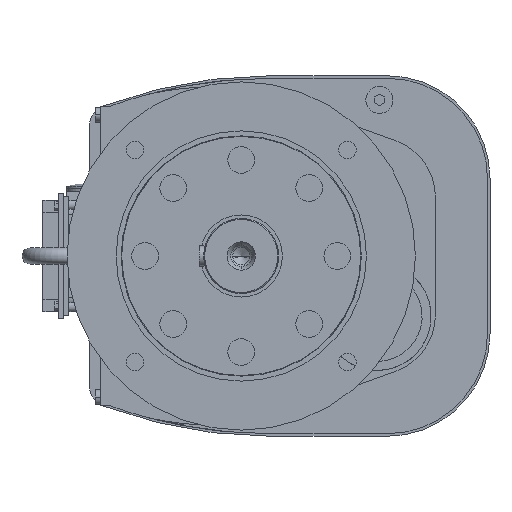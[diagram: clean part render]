
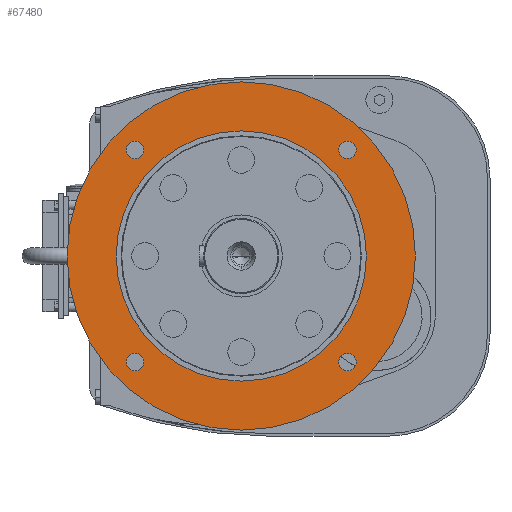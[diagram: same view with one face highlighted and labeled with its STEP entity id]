
A CAD part, left-side view. The second image highlights one B-rep face of the part: STEP entity #67480.
In plain terms, the highlighted planar face has unit normal (-1, 0, 0).
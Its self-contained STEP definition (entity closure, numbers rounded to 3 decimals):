
#64110=CARTESIAN_POINT('',(0.,114.816,-106.066));
#64120=VERTEX_POINT('',#64110);
#64280=CARTESIAN_POINT('',(0.,97.316,-106.066));
#64290=VERTEX_POINT('',#64280);
#64320=CARTESIAN_POINT('',(0.,106.066,-106.066));
#64330=DIRECTION('',(-1.,0.,0.));
#64340=DIRECTION('',(0.,-1.,0.));
#64350=AXIS2_PLACEMENT_3D('',#64320,#64330,#64340);
#64360=CIRCLE('',#64350,8.75);
#64370=EDGE_CURVE('',#64120,#64290,#64360,.T.);
#64790=CARTESIAN_POINT('',(0.,-97.316,-106.066));
#64800=VERTEX_POINT('',#64790);
#64960=CARTESIAN_POINT('',(0.,-114.816,-106.066));
#64970=VERTEX_POINT('',#64960);
#65000=CARTESIAN_POINT('',(0.,-106.066,-106.066));
#65010=DIRECTION('',(-1.,0.,0.));
#65020=DIRECTION('',(0.,-1.,0.));
#65030=AXIS2_PLACEMENT_3D('',#65000,#65010,#65020);
#65040=CIRCLE('',#65030,8.75);
#65050=EDGE_CURVE('',#64800,#64970,#65040,.T.);
#65210=CARTESIAN_POINT('',(0.,173.965,0.));
#65220=VERTEX_POINT('',#65210);
#65250=CARTESIAN_POINT('',(0.,0.,0.));
#65260=DIRECTION('',(-1.,0.,0.));
#65270=DIRECTION('',(0.,-1.,0.));
#65280=AXIS2_PLACEMENT_3D('',#65250,#65260,#65270);
#65290=CIRCLE('',#65280,173.965);
#65300=CARTESIAN_POINT('',(0.,-173.965,0.));
#65310=VERTEX_POINT('',#65300);
#65320=EDGE_CURVE('',#65220,#65310,#65290,.T.);
#66270=CARTESIAN_POINT('',(0.,0.,-125.));
#66280=VERTEX_POINT('',#66270);
#66310=CARTESIAN_POINT('',(0.,0.,0.));
#66320=DIRECTION('',(-1.,0.,0.));
#66330=DIRECTION('',(0.,0.,-1.));
#66340=AXIS2_PLACEMENT_3D('',#66310,#66320,#66330);
#66350=CIRCLE('',#66340,125.);
#66360=CARTESIAN_POINT('',(0.,0.,125.));
#66370=VERTEX_POINT('',#66360);
#66380=EDGE_CURVE('',#66370,#66280,#66350,.T.);
#66930=CARTESIAN_POINT('',(0.,0.,152.95));
#66940=DIRECTION('',(-1.,-0.,-0.));
#66950=DIRECTION('',(0.,0.,-1.));
#66960=AXIS2_PLACEMENT_3D('',#66930,#66940,#66950);
#66970=PLANE('',#66960);
#66980=CARTESIAN_POINT('',(0.,106.066,106.066));
#66990=DIRECTION('',(-1.,0.,0.));
#67000=DIRECTION('',(0.,-1.,0.));
#67010=AXIS2_PLACEMENT_3D('',#66980,#66990,#67000);
#67020=CIRCLE('',#67010,8.75);
#67030=CARTESIAN_POINT('',(0.,97.316,106.066));
#67040=VERTEX_POINT('',#67030);
#67050=CARTESIAN_POINT('',(0.,114.816,106.066));
#67060=VERTEX_POINT('',#67050);
#67070=EDGE_CURVE('',#67040,#67060,#67020,.T.);
#67080=ORIENTED_EDGE('',*,*,#67070,.F.);
#67090=EDGE_CURVE('',#67060,#67040,#67020,.T.);
#67100=ORIENTED_EDGE('',*,*,#67090,.F.);
#67110=EDGE_LOOP('',(#67100,#67080));
#67120=FACE_BOUND('',#67110,.T.);
#67130=CARTESIAN_POINT('',(0.,-106.066,106.066));
#67140=DIRECTION('',(-1.,0.,0.));
#67150=DIRECTION('',(0.,-1.,0.));
#67160=AXIS2_PLACEMENT_3D('',#67130,#67140,#67150);
#67170=CIRCLE('',#67160,8.75);
#67180=CARTESIAN_POINT('',(0.,-114.816,106.066));
#67190=VERTEX_POINT('',#67180);
#67200=CARTESIAN_POINT('',(0.,-97.316,106.066));
#67210=VERTEX_POINT('',#67200);
#67220=EDGE_CURVE('',#67190,#67210,#67170,.T.);
#67230=ORIENTED_EDGE('',*,*,#67220,.F.);
#67240=EDGE_CURVE('',#67210,#67190,#67170,.T.);
#67250=ORIENTED_EDGE('',*,*,#67240,.F.);
#67260=EDGE_LOOP('',(#67250,#67230));
#67270=FACE_BOUND('',#67260,.T.);
#67280=ORIENTED_EDGE('',*,*,#66380,.F.);
#67290=EDGE_CURVE('',#66280,#66370,#66350,.T.);
#67300=ORIENTED_EDGE('',*,*,#67290,.F.);
#67310=EDGE_LOOP('',(#67300,#67280));
#67320=FACE_BOUND('',#67310,.T.);
#67330=EDGE_CURVE('',#64290,#64120,#64360,.T.);
#67340=ORIENTED_EDGE('',*,*,#67330,.F.);
#67350=ORIENTED_EDGE('',*,*,#64370,.F.);
#67360=EDGE_LOOP('',(#67350,#67340));
#67370=FACE_BOUND('',#67360,.T.);
#67380=EDGE_CURVE('',#64970,#64800,#65040,.T.);
#67390=ORIENTED_EDGE('',*,*,#67380,.F.);
#67400=ORIENTED_EDGE('',*,*,#65050,.F.);
#67410=EDGE_LOOP('',(#67400,#67390));
#67420=FACE_BOUND('',#67410,.T.);
#67430=EDGE_CURVE('',#65310,#65220,#65290,.T.);
#67440=ORIENTED_EDGE('',*,*,#67430,.T.);
#67450=ORIENTED_EDGE('',*,*,#65320,.T.);
#67460=EDGE_LOOP('',(#67450,#67440));
#67470=FACE_OUTER_BOUND('',#67460,.T.);
#67480=ADVANCED_FACE('',(#67120,#67270,#67320,#67370,#67420,#67470),#66970,.T.);
